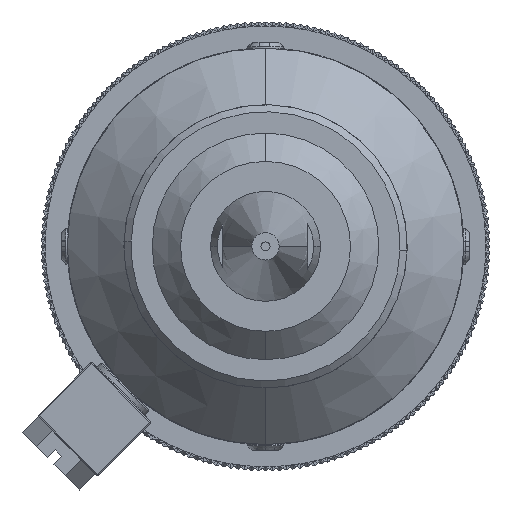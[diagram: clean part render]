
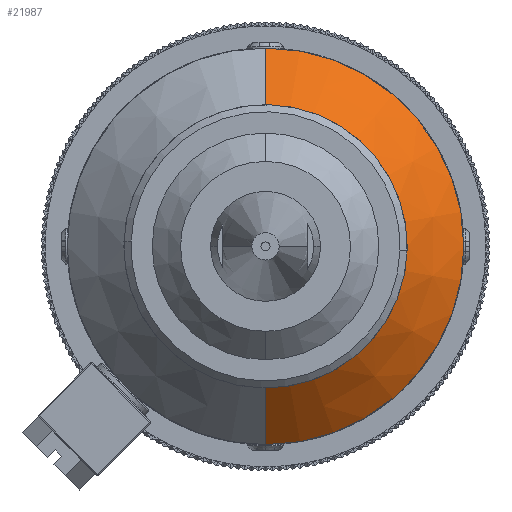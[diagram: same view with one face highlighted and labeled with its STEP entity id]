
A CAD part, front view. The second image highlights one B-rep face of the part: STEP entity #21987.
In plain terms, the highlighted conical face has half-angle 45 degrees and reference radius 15.875 mm.
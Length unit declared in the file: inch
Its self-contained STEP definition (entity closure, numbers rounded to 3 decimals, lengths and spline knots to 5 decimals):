
#4044 = CARTESIAN_POINT ( 'NONE',  ( 0., 0., -0.625 ) ) ;
#4400 = DIRECTION ( 'NONE',  ( 0., -1., 0. ) ) ;
#21987 = ADVANCED_FACE ( 'NONE', ( #90651 ), #222385, .T. ) ;
#24601 = DIRECTION ( 'NONE',  ( 0., 0.707, -0.707 ) ) ;
#29424 = ORIENTED_EDGE ( 'NONE', *, *, #161840, .F. ) ;
#39870 = EDGE_LOOP ( 'NONE', ( #86869, #259249, #46203, #29424 ) ) ;
#46203 = ORIENTED_EDGE ( 'NONE', *, *, #225020, .T. ) ;
#50608 = AXIS2_PLACEMENT_3D ( 'NONE', #245624, #204408, #205298 ) ;
#51331 = DIRECTION ( 'NONE',  ( 0., -1., 0. ) ) ;
#52511 = CARTESIAN_POINT ( 'NONE',  ( 0., 0.25, 0.875 ) ) ;
#86869 = ORIENTED_EDGE ( 'NONE', *, *, #142297, .F. ) ;
#90651 = FACE_OUTER_BOUND ( 'NONE', #39870, .T. ) ;
#112746 = VERTEX_POINT ( 'NONE', #232515 ) ;
#115711 = VECTOR ( 'NONE', #24601, 39.37008 ) ;
#122421 = VERTEX_POINT ( 'NONE', #152574 ) ;
#125350 = VERTEX_POINT ( 'NONE', #234160 ) ;
#127569 = CARTESIAN_POINT ( 'NONE',  ( 0., 0.25, 0. ) ) ;
#142297 = EDGE_CURVE ( 'NONE', #112746, #122421, #171499, .T. ) ;
#148194 = DIRECTION ( 'NONE',  ( 0., 0., -1. ) ) ;
#152574 = CARTESIAN_POINT ( 'NONE',  ( 0., 0., 0.625 ) ) ;
#153680 = LINE ( 'NONE', #156977, #201915 ) ;
#156977 = CARTESIAN_POINT ( 'NONE',  ( 0., 0., 0.625 ) ) ;
#161840 = EDGE_CURVE ( 'NONE', #122421, #251085, #153680, .T. ) ;
#164488 = EDGE_CURVE ( 'NONE', #112746, #125350, #224988, .T. ) ;
#166915 = AXIS2_PLACEMENT_3D ( 'NONE', #127569, #4400, #148194 ) ;
#170301 = AXIS2_PLACEMENT_3D ( 'NONE', #174449, #51331, #195107 ) ;
#171499 = CIRCLE ( 'NONE', #170301, 0.625 ) ;
#174449 = CARTESIAN_POINT ( 'NONE',  ( 0., 0., 0. ) ) ;
#195107 = DIRECTION ( 'NONE',  ( 0., 0., -1. ) ) ;
#201915 = VECTOR ( 'NONE', #259282, 39.37008 ) ;
#204408 = DIRECTION ( 'NONE',  ( 0., 1., 0. ) ) ;
#205298 = DIRECTION ( 'NONE',  ( 0., 0., 1. ) ) ;
#222385 = CONICAL_SURFACE ( 'NONE', #50608, 0.625, 0.785 ) ;
#224988 = LINE ( 'NONE', #4044, #115711 ) ;
#225020 = EDGE_CURVE ( 'NONE', #125350, #251085, #260292, .T. ) ;
#232515 = CARTESIAN_POINT ( 'NONE',  ( 0., 0., -0.625 ) ) ;
#234160 = CARTESIAN_POINT ( 'NONE',  ( 0., 0.25, -0.875 ) ) ;
#245624 = CARTESIAN_POINT ( 'NONE',  ( 0., 0., 0. ) ) ;
#251085 = VERTEX_POINT ( 'NONE', #52511 ) ;
#259249 = ORIENTED_EDGE ( 'NONE', *, *, #164488, .T. ) ;
#259282 = DIRECTION ( 'NONE',  ( 0., 0.707, 0.707 ) ) ;
#260292 = CIRCLE ( 'NONE', #166915, 0.875 ) ;
